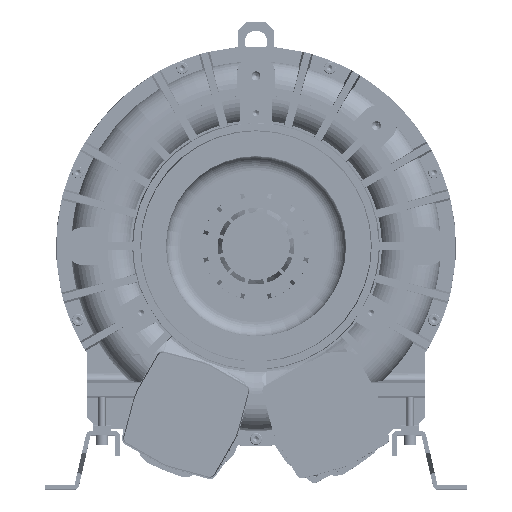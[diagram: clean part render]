
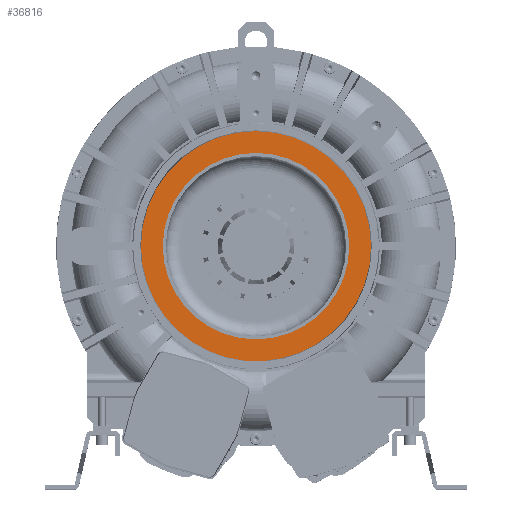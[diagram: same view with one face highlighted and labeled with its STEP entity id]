
A CAD part, top view. The second image highlights one B-rep face of the part: STEP entity #36816.
In plain terms, the highlighted planar face has unit normal (0, 0, 1).
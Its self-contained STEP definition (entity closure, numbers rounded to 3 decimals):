
#10304 = DIRECTION ( 'NONE',  ( -1., 0., 0. ) ) ;
#13766 = DIRECTION ( 'NONE',  ( 0., 0., 1. ) ) ;
#18841 = VERTEX_POINT ( 'NONE', #39538 ) ;
#23390 = PLANE ( 'NONE',  #104587 ) ;
#25792 = FACE_OUTER_BOUND ( 'NONE', #198756, .T. ) ;
#36816 = ADVANCED_FACE ( 'NONE', ( #192719, #25792 ), #23390, .F. ) ;
#39538 = CARTESIAN_POINT ( 'NONE',  ( 103.5, 0., 196.5 ) ) ;
#51549 = CARTESIAN_POINT ( 'NONE',  ( 0., 0., 196.5 ) ) ;
#58235 = EDGE_LOOP ( 'NONE', ( #199643 ) ) ;
#66010 = ORIENTED_EDGE ( 'NONE', *, *, #212277, .T. ) ;
#91019 = EDGE_CURVE ( 'NONE', #18841, #18841, #107190, .T. ) ;
#100148 = CARTESIAN_POINT ( 'NONE',  ( 0., 0., 196.5 ) ) ;
#104587 = AXIS2_PLACEMENT_3D ( 'NONE', #100148, #174455, #172057 ) ;
#107190 = CIRCLE ( 'NONE', #223834, 103.5 ) ;
#115401 = AXIS2_PLACEMENT_3D ( 'NONE', #228451, #173651, #10304 ) ;
#172057 = DIRECTION ( 'NONE',  ( -1., 0., 0. ) ) ;
#173651 = DIRECTION ( 'NONE',  ( 0., 0., 1. ) ) ;
#174455 = DIRECTION ( 'NONE',  ( 0., 0., -1. ) ) ;
#178353 = CARTESIAN_POINT ( 'NONE',  ( -127.694, 0., 196.5 ) ) ;
#181956 = VERTEX_POINT ( 'NONE', #178353 ) ;
#192719 = FACE_BOUND ( 'NONE', #58235, .T. ) ;
#193099 = CIRCLE ( 'NONE', #115401, 127.694 ) ;
#198756 = EDGE_LOOP ( 'NONE', ( #66010 ) ) ;
#199643 = ORIENTED_EDGE ( 'NONE', *, *, #91019, .F. ) ;
#212277 = EDGE_CURVE ( 'NONE', #181956, #181956, #193099, .T. ) ;
#219623 = DIRECTION ( 'NONE',  ( 1., 0., 0. ) ) ;
#223834 = AXIS2_PLACEMENT_3D ( 'NONE', #51549, #13766, #219623 ) ;
#228451 = CARTESIAN_POINT ( 'NONE',  ( 0., 0., 196.5 ) ) ;
